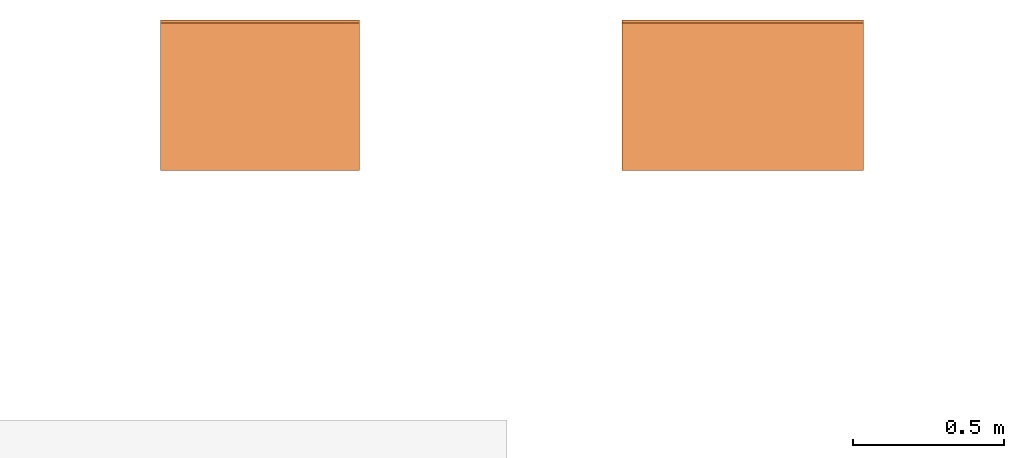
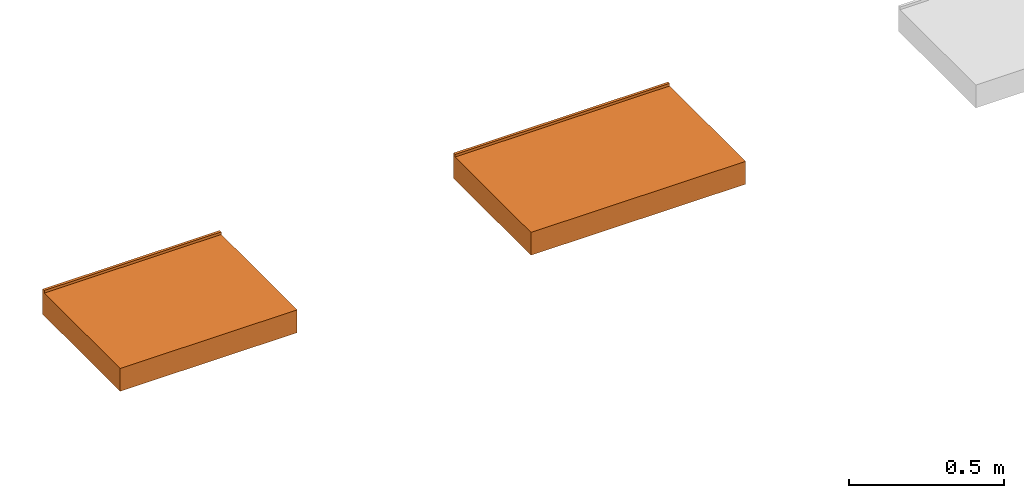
# One storey, part 3 of 3: 2 proxies.
"""IFC2X3 building model written with IfcOpenShell, lengths in millimetres."""

from ifc_helpers import new_model, entity, si_unit, converted_unit, derived_unit, direction, frame, origin, place, context, subcontext, project, spatial, faceted_brep, source, transform, mapped, material, type_object, type_shapes, element, save


model = new_model("IFC2X3")

# Units and contexts
model_context = context("Model", 3, precision=0.01, world=origin(), true_north=direction((6.12303176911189e-17, 1.0)))
context_of_model = context(None, 3, precision=0.01, world=origin(), true_north=direction((6.12303176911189e-17, 1.0)))
body_context = subcontext(model_context, "Body", "Model", "MODEL_VIEW")
ifc_project = project(units=[si_unit("LENGTHUNIT", "METRE", prefix="MILLI"), si_unit("AREAUNIT", "SQUARE_METRE"), si_unit("VOLUMEUNIT", "CUBIC_METRE"), converted_unit("PLANEANGLEUNIT", "DEGREE", entity("IfcRatioMeasure", 0.0174532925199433), si_unit("PLANEANGLEUNIT", "RADIAN"), dimensions=[0, 0, 0, 0, 0, 0, 0]), si_unit("MASSUNIT", "GRAM", prefix="KILO"), derived_unit("MASSDENSITYUNIT", [(si_unit("MASSUNIT", "GRAM", prefix="KILO"), 1), (si_unit("LENGTHUNIT", "METRE"), -3)]), si_unit("TIMEUNIT", "SECOND"), si_unit("FREQUENCYUNIT", "HERTZ"), si_unit("THERMODYNAMICTEMPERATUREUNIT", "DEGREE_CELSIUS"), derived_unit("THERMALTRANSMITTANCEUNIT", [(si_unit("MASSUNIT", "GRAM", prefix="KILO"), 1), (si_unit("THERMODYNAMICTEMPERATUREUNIT", "KELVIN"), -1), (si_unit("TIMEUNIT", "SECOND"), -3)]), derived_unit("VOLUMETRICFLOWRATEUNIT", [(si_unit("LENGTHUNIT", "METRE"), 3), (si_unit("TIMEUNIT", "SECOND"), -1)]), si_unit("ELECTRICCURRENTUNIT", "AMPERE"), si_unit("ELECTRICVOLTAGEUNIT", "VOLT"), si_unit("POWERUNIT", "WATT"), si_unit("FORCEUNIT", "NEWTON", prefix="KILO"), si_unit("ILLUMINANCEUNIT", "LUX"), si_unit("LUMINOUSFLUXUNIT", "LUMEN"), si_unit("LUMINOUSINTENSITYUNIT", "CANDELA"), derived_unit("USERDEFINED", [(si_unit("MASSUNIT", "GRAM", prefix="KILO"), -1), (si_unit("LENGTHUNIT", "METRE"), -2), (si_unit("TIMEUNIT", "SECOND"), 3), (si_unit("LUMINOUSFLUXUNIT", "LUMEN"), 1)]), derived_unit("LINEARVELOCITYUNIT", [(si_unit("LENGTHUNIT", "METRE"), 1), (si_unit("TIMEUNIT", "SECOND"), -1)]), si_unit("PRESSUREUNIT", "PASCAL"), derived_unit("USERDEFINED", [(si_unit("LENGTHUNIT", "METRE"), -2), (si_unit("MASSUNIT", "GRAM", prefix="KILO"), 1), (si_unit("TIMEUNIT", "SECOND"), -2)])], contexts=[model_context, context_of_model])

# Site, building, storey
site_placement = place(None, origin())
site = spatial("IfcSite", under=ifc_project, at=site_placement, Name="Default", CompositionType="ELEMENT")
building_placement = place(site_placement, origin())
building = spatial("IfcBuilding", under=site, at=building_placement, Name="n/a", CompositionType="ELEMENT")
storey_placement = place(building_placement, origin())
storey = spatial("IfcBuildingStorey", under=building, at=storey_placement, Name="Level 0", CompositionType="ELEMENT", Elevation=0.0)

# Proxies
ifc_material = material(Name="DBLTD_Neilur_SolidSurface_White")
building_element_proxy_type_1 = type_object("IfcBuildingElementProxyType", PredefinedType="NOTDEFINED", material=ifc_material)
shared_shape_1 = source(origin(), body_context, "Body", "Brep", [
    faceted_brep([(660.0, 490.0, 90.0), (660.0, 0.0, 90.0), (660.0, 0.0, 0.0), (660.0, 500.0, 0.0), (660.0, 500.0, 100.0), (660.0, 490.0, 100.0), (0.0, 500.0, 0.0), (0.0, 0.0, 0.0), (0.0, 0.0, 90.0), (0.0, 490.0, 90.0), (0.0, 490.0, 100.0), (0.0, 500.0, 100.0), (619.104568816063, 490.0, 57.7377311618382), (621.036594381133, 490.0, 56.9374599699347), (650.0, 490.0, 80.0), (617.03125, 490.0, 58.0106887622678), (622.695662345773, 490.0, 55.6644123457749), (623.968709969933, 490.0, 54.0053443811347), (624.768981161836, 490.0, 52.0733188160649), (625.041938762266, 490.0, 50.0), (624.768981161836, 490.0, 47.9266811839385), (650.0, 490.0, 0.0), (623.968709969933, 490.0, 45.9946556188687), (622.695662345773, 490.0, 44.3355876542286), (621.036594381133, 490.0, 43.0625400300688), (619.104568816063, 490.0, 42.2622688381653), (617.03125, 490.0, 41.9893112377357), (602.96875, 490.0, 41.9893112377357), (600.895431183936, 490.0, 42.2622688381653), (598.963405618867, 490.0, 43.0625400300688), (10.0, 490.0, 0.0), (61.0365943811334, 490.0, 43.0625400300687), (597.304337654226, 490.0, 44.3355876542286), (62.6956623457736, 490.0, 44.3355876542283), (596.031290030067, 490.0, 45.9946556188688), (63.9687099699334, 490.0, 45.9946556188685), (595.231018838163, 490.0, 47.9266811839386), (64.7689811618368, 490.0, 47.9266811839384), (594.958061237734, 490.0, 50.0), (65.0419387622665, 490.0, 50.0), (64.7689811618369, 490.0, 52.0733188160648), (595.231018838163, 490.0, 52.073318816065), (63.9687099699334, 490.0, 54.0053443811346), (596.031290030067, 490.0, 54.0053443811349), (62.6956623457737, 490.0, 55.6644123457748), (597.304337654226, 490.0, 55.6644123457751), (61.0365943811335, 490.0, 56.9374599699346), (598.963405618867, 490.0, 56.9374599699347), (59.1045688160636, 490.0, 57.7377311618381), (600.895431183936, 490.0, 57.7377311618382), (10.0, 490.0, 80.0), (602.96875, 490.0, 58.0106887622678), (57.0312500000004, 490.0, 58.0106887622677), (59.1045688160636, 490.0, 42.2622688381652), (57.0312500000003, 490.0, 41.9893112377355), (42.9687500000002, 490.0, 41.9893112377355), (40.8954311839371, 490.0, 42.2622688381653), (38.9634056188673, 490.0, 43.0625400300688), (37.3043376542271, 490.0, 44.3355876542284), (36.0312900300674, 490.0, 45.9946556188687), (35.2310188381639, 490.0, 47.9266811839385), (34.9580612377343, 490.0, 50.0), (35.2310188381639, 490.0, 52.0733188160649), (36.0312900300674, 490.0, 54.0053443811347), (37.3043376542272, 490.0, 55.6644123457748), (38.9634056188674, 490.0, 56.9374599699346), (40.8954311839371, 490.0, 57.7377311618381), (42.9687500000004, 490.0, 58.0106887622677), (650.0, 10.0, 0.0), (10.0, 10.0, 0.0), (617.03125, 500.0, 41.9893112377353), (619.104568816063, 500.0, 42.2622688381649), (602.96875, 500.0, 41.9893112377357), (621.036594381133, 500.0, 43.0625400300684), (622.695662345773, 500.0, 44.335587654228), (623.968709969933, 500.0, 45.9946556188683), (624.768981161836, 500.0, 47.9266811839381), (625.041938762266, 500.0, 50.0), (600.895431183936, 500.0, 42.2622688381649), (598.963405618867, 500.0, 43.0625400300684), (61.0365943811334, 500.0, 43.0625400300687), (59.1045688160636, 500.0, 42.2622688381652), (57.0312500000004, 500.0, 41.9893112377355), (42.9687500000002, 500.0, 41.9893112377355), (40.895431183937, 500.0, 42.2622688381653), (38.9634056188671, 500.0, 43.0625400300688), (37.3043376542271, 500.0, 44.3355876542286), (36.0312900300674, 500.0, 45.9946556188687), (35.2310188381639, 500.0, 47.9266811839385), (34.9580612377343, 500.0, 50.0), (598.963405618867, 500.0, 56.9374599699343), (35.2310188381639, 500.0, 52.0733188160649), (36.0312900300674, 500.0, 54.0053443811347), (37.3043376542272, 500.0, 55.6644123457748), (38.9634056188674, 500.0, 56.9374599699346), (40.8954311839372, 500.0, 57.7377311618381), (42.9687500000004, 500.0, 58.0106887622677), (57.0312500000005, 500.0, 58.0106887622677), (59.1045688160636, 500.0, 57.7377311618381), (61.0365943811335, 500.0, 56.9374599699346), (600.895431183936, 500.0, 57.7377311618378), (597.304337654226, 500.0, 55.6644123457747), (62.6956623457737, 500.0, 55.6644123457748), (596.031290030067, 500.0, 54.0053443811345), (63.9687099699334, 500.0, 54.0053443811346), (595.231018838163, 500.0, 52.0733188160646), (64.7689811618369, 500.0, 52.0733188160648), (594.958061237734, 500.0, 50.0), (65.0419387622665, 500.0, 50.0), (64.7689811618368, 500.0, 47.9266811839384), (595.231018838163, 500.0, 47.9266811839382), (63.9687099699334, 500.0, 45.9946556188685), (596.031290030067, 500.0, 45.9946556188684), (62.6956623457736, 500.0, 44.3355876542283), (597.304337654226, 500.0, 44.3355876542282), (624.768981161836, 500.0, 52.0733188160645), (623.968709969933, 500.0, 54.0053443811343), (622.695662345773, 500.0, 55.6644123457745), (621.036594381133, 500.0, 56.9374599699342), (619.104568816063, 500.0, 57.7377311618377), (617.03125, 500.0, 58.0106887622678), (602.96875, 500.0, 58.0106887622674), (10.0, 10.0, 80.0), (650.0, 10.0, 80.0)], [[[0, 1, 2, 3, 4, 5]], [[6, 7, 8, 9, 10, 11]], [[0, 5, 10, 9]], [[0, 5, 9]], [[10, 9, 5]], [[12, 13, 14]], [[15, 12, 14]], [[16, 14, 13]], [[14, 16, 17]], [[14, 17, 18]], [[14, 18, 19]], [[19, 20, 14]], [[21, 14, 20]], [[21, 20, 22]], [[21, 22, 23]], [[23, 24, 21]], [[25, 21, 24]], [[26, 21, 25]], [[21, 26, 27]], [[21, 27, 28]], [[21, 28, 29]], [[21, 29, 30]], [[31, 30, 29]], [[32, 31, 29]], [[31, 32, 33]], [[33, 32, 34]], [[33, 34, 35]], [[35, 34, 36]], [[36, 37, 35]], [[37, 36, 38]], [[38, 39, 37]], [[40, 39, 38]], [[38, 41, 40]], [[41, 42, 40]], [[42, 41, 43]], [[43, 44, 42]], [[44, 43, 45]], [[44, 45, 46]], [[46, 45, 47]], [[46, 47, 48]], [[47, 49, 48]], [[50, 49, 14]], [[14, 49, 51]], [[49, 50, 48]], [[14, 51, 15]], [[50, 52, 48]], [[30, 31, 53]], [[30, 53, 54]], [[54, 55, 30]], [[56, 30, 55]], [[30, 56, 57]], [[58, 30, 57]], [[30, 58, 59]], [[30, 59, 60]], [[60, 61, 50]], [[50, 30, 60]], [[50, 61, 62]], [[50, 62, 63]], [[50, 63, 64]], [[64, 65, 50]], [[50, 65, 66]], [[66, 67, 50]], [[52, 50, 67]], [[1, 0, 9, 8]], [[2, 1, 8, 7]], [[2, 68, 21]], [[68, 2, 69]], [[21, 3, 2]], [[7, 69, 2]], [[69, 7, 30]], [[6, 30, 7]], [[30, 6, 3]], [[3, 21, 30]], [[3, 70, 71]], [[70, 3, 72]], [[3, 71, 73]], [[73, 74, 3]], [[75, 3, 74]], [[75, 76, 3]], [[3, 76, 77]], [[78, 72, 3]], [[79, 78, 3]], [[3, 6, 79]], [[77, 4, 3]], [[80, 79, 6]], [[81, 80, 6]], [[82, 81, 6]], [[6, 83, 82]], [[83, 6, 84]], [[84, 6, 85]], [[86, 85, 6]], [[86, 6, 87]], [[88, 87, 6]], [[6, 89, 88]], [[89, 6, 11]], [[4, 90, 11]], [[91, 89, 11]], [[92, 91, 11]], [[11, 93, 92]], [[93, 11, 94]], [[95, 94, 11]], [[95, 11, 96]], [[97, 96, 11]], [[98, 97, 11]], [[99, 98, 11]], [[99, 11, 90]], [[100, 90, 4]], [[101, 99, 90]], [[102, 99, 101]], [[101, 103, 102]], [[104, 102, 103]], [[103, 105, 104]], [[106, 104, 105]], [[107, 106, 105]], [[108, 106, 107]], [[109, 108, 107]], [[107, 110, 109]], [[109, 110, 111]], [[112, 111, 110]], [[113, 111, 112]], [[112, 114, 113]], [[79, 80, 114]], [[80, 113, 114]], [[77, 115, 4]], [[115, 116, 4]], [[117, 4, 116]], [[4, 117, 118]], [[118, 119, 4]], [[4, 119, 120]], [[120, 121, 4]], [[121, 100, 4]], [[5, 4, 11, 10]], [[122, 50, 14, 123]], [[30, 50, 122, 69]], [[69, 122, 123, 68]], [[68, 123, 14, 21]], [[96, 97, 52, 67]], [[120, 15, 51, 121]], [[96, 67, 66, 95]], [[95, 66, 65, 94]], [[92, 93, 64, 63]], [[64, 93, 94, 65]], [[91, 92, 63, 62]], [[91, 62, 61, 89]], [[89, 61, 60, 88]], [[88, 60, 59, 87]], [[85, 86, 58, 57]], [[58, 86, 87, 59]], [[84, 85, 57, 56]], [[84, 56, 55, 83]], [[83, 55, 54, 82]], [[70, 72, 27, 26]], [[81, 82, 54, 53]], [[81, 53, 31, 80]], [[111, 113, 33, 35]], [[113, 80, 31, 33]], [[111, 35, 37, 109]], [[109, 37, 39, 108]], [[108, 39, 40, 106]], [[106, 40, 42, 104]], [[99, 102, 44, 46]], [[44, 102, 104, 42]], [[98, 99, 46, 48]], [[98, 48, 52, 97]], [[49, 47, 90, 100]], [[51, 49, 100, 121]], [[43, 41, 105, 103]], [[45, 43, 103, 101]], [[47, 45, 101, 90]], [[41, 38, 107, 105]], [[34, 32, 114, 112]], [[36, 34, 112, 110]], [[28, 27, 72, 78]], [[29, 28, 78, 79]], [[32, 29, 79, 114]], [[110, 107, 38, 36]], [[25, 24, 73, 71]], [[26, 25, 71, 70]], [[22, 20, 76, 75]], [[23, 22, 75, 74]], [[24, 23, 74, 73]], [[20, 19, 77, 76]], [[17, 16, 117, 116]], [[18, 17, 116, 115]], [[12, 15, 120, 119]], [[13, 12, 119, 118]], [[16, 13, 118, 117]], [[115, 77, 19, 18]]]),
])
type_shapes(building_element_proxy_type_1, [shared_shape_1])
proxy_1_placement = place(storey_placement, frame((2468.96138655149, 2338.29335960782, 950.0)))
element("IfcBuildingElementProxy", 1, at=proxy_1_placement, inside=storey, type_object=building_element_proxy_type_1, material=ifc_material, Name="(7)", ObjectType="DBLTD_Neilur_Shelves_ShelfForCounertopBasin:Countertop Basin Shelf 600 mm", context=body_context, shape_type="MappedRepresentation", body=[
    mapped(shared_shape_1, transform((0.0, 0.0, 0.0), scale=1.0)),
])
building_element_proxy_type_2 = type_object("IfcBuildingElementProxyType", PredefinedType="NOTDEFINED", material=ifc_material)
shared_shape_2 = source(origin(), body_context, "Body", "Brep", [
    faceted_brep([(800.0, 490.0, 90.0), (800.0, 0.0, 90.0), (800.0, 0.0, 0.0), (800.0, 500.0, 0.0), (800.0, 500.0, 100.0), (800.0, 490.0, 100.0), (0.0, 500.0, 0.0), (0.0, 0.0, 0.0), (0.0, 0.0, 90.0), (0.0, 490.0, 90.0), (0.0, 490.0, 100.0), (0.0, 500.0, 100.0), (759.104568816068, 490.0, 57.737731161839), (761.036594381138, 490.0, 56.9374599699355), (790.0, 490.0, 80.0), (757.031250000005, 490.0, 58.0106887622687), (762.695662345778, 490.0, 55.6644123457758), (763.968709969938, 490.0, 54.0053443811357), (764.768981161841, 490.0, 52.0733188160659), (765.041938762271, 490.0, 50.0), (764.768981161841, 490.0, 47.9266811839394), (790.0, 490.0, 0.0), (763.968709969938, 490.0, 45.9946556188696), (762.695662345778, 490.0, 44.3355876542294), (761.036594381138, 490.0, 43.0625400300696), (759.104568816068, 490.0, 42.2622688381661), (757.031250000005, 490.0, 41.9893112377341), (742.968750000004, 490.0, 41.9893112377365), (740.895431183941, 490.0, 42.2622688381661), (738.963405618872, 490.0, 43.0625400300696), (10.0, 490.0, 0.0), (61.0365943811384, 490.0, 43.0625400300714), (737.304337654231, 490.0, 44.3355876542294), (62.6956623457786, 490.0, 44.335587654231), (736.031290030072, 490.0, 45.9946556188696), (63.9687099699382, 490.0, 45.9946556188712), (735.231018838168, 490.0, 47.9266811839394), (64.7689811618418, 490.0, 47.9266811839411), (734.958061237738, 490.0, 50.0), (65.0419387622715, 490.0, 50.0), (64.7689811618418, 490.0, 52.0733188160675), (735.231018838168, 490.0, 52.0733188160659), (63.9687099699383, 490.0, 54.0053443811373), (736.031290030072, 490.0, 54.0053443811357), (62.6956623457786, 490.0, 55.6644123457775), (737.304337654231, 490.0, 55.6644123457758), (61.0365943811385, 490.0, 56.9374599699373), (738.963405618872, 490.0, 56.9374599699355), (740.895431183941, 490.0, 57.737731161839), (10.0, 490.0, 80.0), (742.968750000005, 490.0, 58.0106887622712), (59.1045688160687, 490.0, 57.7377311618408), (59.1045688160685, 490.0, 42.2622688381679), (57.0312500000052, 490.0, 41.9893112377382), (42.9687500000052, 490.0, 41.9893112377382), (40.8954311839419, 490.0, 42.262268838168), (38.9634056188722, 490.0, 43.0625400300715), (37.3043376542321, 490.0, 44.3355876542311), (36.0312900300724, 490.0, 45.9946556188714), (35.2310188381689, 490.0, 47.9266811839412), (34.9580612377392, 490.0, 50.0), (35.2310188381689, 490.0, 52.0733188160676), (36.0312900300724, 490.0, 54.0053443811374), (37.3043376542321, 490.0, 55.6644123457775), (38.9634056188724, 490.0, 56.9374599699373), (40.8954311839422, 490.0, 57.7377311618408), (42.9687500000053, 490.0, 58.0106887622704), (57.0312500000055, 490.0, 58.0106887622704), (790.0, 10.0, 0.0), (10.0, 10.0, 0.0), (757.031250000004, 500.0, 41.9893112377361), (759.104568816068, 500.0, 42.2622688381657), (742.968750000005, 500.0, 41.9893112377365), (761.036594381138, 500.0, 43.0625400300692), (762.695662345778, 500.0, 44.3355876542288), (763.968709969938, 500.0, 45.9946556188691), (764.768981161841, 500.0, 47.9266811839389), (765.041938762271, 500.0, 50.0), (740.895431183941, 500.0, 42.2622688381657), (738.963405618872, 500.0, 43.0625400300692), (61.0365943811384, 500.0, 43.0625400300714), (59.1045688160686, 500.0, 42.2622688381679), (57.0312500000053, 500.0, 41.9893112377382), (42.9687500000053, 500.0, 41.9893112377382), (40.895431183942, 500.0, 42.262268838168), (38.9634056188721, 500.0, 43.0625400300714), (37.3043376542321, 500.0, 44.3355876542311), (36.0312900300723, 500.0, 45.9946556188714), (35.2310188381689, 500.0, 47.9266811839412), (34.9580612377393, 500.0, 50.0), (738.963405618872, 500.0, 56.9374599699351), (35.2310188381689, 500.0, 52.0733188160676), (36.0312900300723, 500.0, 54.0053443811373), (37.3043376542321, 500.0, 55.6644123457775), (38.9634056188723, 500.0, 56.9374599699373), (40.895431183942, 500.0, 57.7377311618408), (42.9687500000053, 500.0, 58.0106887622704), (57.0312500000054, 500.0, 58.0106887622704), (59.1045688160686, 500.0, 57.7377311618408), (61.0365943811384, 500.0, 56.9374599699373), (740.895431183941, 500.0, 57.7377311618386), (737.304337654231, 500.0, 55.6644123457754), (62.6956623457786, 500.0, 55.6644123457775), (736.031290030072, 500.0, 54.0053443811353), (63.9687099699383, 500.0, 54.0053443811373), (735.231018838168, 500.0, 52.0733188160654), (64.7689811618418, 500.0, 52.0733188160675), (734.958061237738, 500.0, 50.0), (65.0419387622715, 500.0, 50.0), (64.7689811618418, 500.0, 47.9266811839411), (735.231018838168, 500.0, 47.926681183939), (63.9687099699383, 500.0, 45.9946556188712), (736.031290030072, 500.0, 45.9946556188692), (62.6956623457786, 500.0, 44.3355876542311), (737.304337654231, 500.0, 44.335587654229), (764.768981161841, 500.0, 52.0733188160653), (763.968709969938, 500.0, 54.0053443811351), (762.695662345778, 500.0, 55.6644123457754), (761.036594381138, 500.0, 56.9374599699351), (759.104568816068, 500.0, 57.7377311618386), (757.031250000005, 500.0, 58.0106887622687), (742.968750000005, 500.0, 58.0106887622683), (790.0, 10.0, 80.0), (10.0, 10.0, 80.0)], [[[0, 1, 2, 3, 4, 5]], [[6, 7, 8, 9, 10, 11]], [[0, 5, 10, 9]], [[0, 5, 10]], [[10, 9, 0]], [[12, 13, 14]], [[15, 12, 14]], [[16, 14, 13]], [[14, 16, 17]], [[14, 17, 18]], [[14, 18, 19]], [[19, 20, 14]], [[21, 14, 20]], [[21, 20, 22]], [[21, 22, 23]], [[23, 24, 21]], [[25, 21, 24]], [[26, 21, 25]], [[21, 26, 27]], [[21, 27, 28]], [[21, 28, 29]], [[21, 29, 30]], [[31, 30, 29]], [[32, 31, 29]], [[31, 32, 33]], [[33, 32, 34]], [[33, 34, 35]], [[35, 34, 36]], [[36, 37, 35]], [[37, 36, 38]], [[38, 39, 37]], [[40, 39, 38]], [[38, 41, 40]], [[41, 42, 40]], [[42, 41, 43]], [[43, 44, 42]], [[44, 43, 45]], [[44, 45, 46]], [[46, 45, 47]], [[14, 47, 48]], [[49, 47, 14]], [[47, 49, 46]], [[14, 48, 50]], [[14, 50, 15]], [[49, 51, 46]], [[30, 31, 52]], [[30, 52, 53]], [[53, 54, 30]], [[55, 30, 54]], [[30, 55, 56]], [[57, 30, 56]], [[30, 57, 58]], [[30, 58, 59]], [[59, 60, 49]], [[49, 30, 59]], [[49, 60, 61]], [[49, 61, 62]], [[49, 62, 63]], [[63, 64, 49]], [[49, 64, 65]], [[65, 66, 49]], [[67, 49, 66]], [[49, 67, 51]], [[1, 0, 9, 8]], [[2, 1, 8, 7]], [[2, 68, 21]], [[68, 2, 69]], [[21, 3, 2]], [[7, 69, 2]], [[69, 7, 30]], [[6, 30, 7]], [[30, 6, 3]], [[3, 21, 30]], [[3, 70, 71]], [[70, 3, 72]], [[3, 71, 73]], [[73, 74, 3]], [[75, 3, 74]], [[75, 76, 3]], [[3, 76, 77]], [[78, 72, 3]], [[79, 78, 3]], [[3, 6, 79]], [[77, 4, 3]], [[80, 79, 6]], [[81, 80, 6]], [[82, 81, 6]], [[6, 83, 82]], [[83, 6, 84]], [[84, 6, 85]], [[86, 85, 6]], [[86, 6, 87]], [[88, 87, 6]], [[6, 89, 88]], [[89, 6, 11]], [[4, 90, 11]], [[91, 89, 11]], [[92, 91, 11]], [[11, 93, 92]], [[93, 11, 94]], [[95, 94, 11]], [[95, 11, 96]], [[97, 96, 11]], [[98, 97, 11]], [[99, 98, 11]], [[99, 11, 90]], [[100, 90, 4]], [[101, 99, 90]], [[102, 99, 101]], [[101, 103, 102]], [[104, 102, 103]], [[103, 105, 104]], [[106, 104, 105]], [[107, 106, 105]], [[108, 106, 107]], [[109, 108, 107]], [[107, 110, 109]], [[109, 110, 111]], [[112, 111, 110]], [[113, 111, 112]], [[112, 114, 113]], [[79, 80, 114]], [[80, 113, 114]], [[77, 115, 4]], [[115, 116, 4]], [[117, 4, 116]], [[4, 117, 118]], [[118, 119, 4]], [[4, 119, 120]], [[120, 121, 4]], [[121, 100, 4]], [[5, 4, 11, 10]], [[49, 14, 122, 123]], [[30, 49, 123, 69]], [[69, 123, 122, 68]], [[68, 122, 14, 21]], [[96, 97, 67, 66]], [[121, 120, 15, 50]], [[96, 66, 65, 95]], [[95, 65, 64, 94]], [[92, 93, 63, 62]], [[63, 93, 94, 64]], [[91, 92, 62, 61]], [[91, 61, 60, 89]], [[89, 60, 59, 88]], [[88, 59, 58, 87]], [[85, 86, 57, 56]], [[57, 86, 87, 58]], [[84, 85, 56, 55]], [[84, 55, 54, 83]], [[82, 83, 54, 53]], [[70, 72, 27, 26]], [[81, 82, 53, 52]], [[81, 52, 31, 80]], [[111, 113, 33, 35]], [[113, 80, 31, 33]], [[111, 35, 37, 109]], [[109, 37, 39, 108]], [[108, 39, 40, 106]], [[106, 40, 42, 104]], [[99, 102, 44, 46]], [[44, 102, 104, 42]], [[98, 99, 46, 51]], [[98, 51, 67, 97]], [[48, 47, 90, 100]], [[50, 48, 100, 121]], [[43, 41, 105, 103]], [[45, 43, 103, 101]], [[47, 45, 101, 90]], [[41, 38, 107, 105]], [[34, 32, 114, 112]], [[36, 34, 112, 110]], [[28, 27, 72, 78]], [[29, 28, 78, 79]], [[32, 29, 79, 114]], [[110, 107, 38, 36]], [[25, 24, 73, 71]], [[26, 25, 71, 70]], [[22, 20, 76, 75]], [[23, 22, 75, 74]], [[24, 23, 74, 73]], [[20, 19, 77, 76]], [[17, 16, 117, 116]], [[18, 17, 116, 115]], [[12, 15, 120, 119]], [[13, 12, 119, 118]], [[16, 13, 118, 117]], [[115, 77, 19, 18]]]),
])
type_shapes(building_element_proxy_type_2, [shared_shape_2])
proxy_2_placement = place(storey_placement, frame((4000.23961769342, 2338.29335960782, 950.0)))
element("IfcBuildingElementProxy", 2, at=proxy_2_placement, inside=storey, type_object=building_element_proxy_type_2, material=ifc_material, Name="(9)", ObjectType="DBLTD_Neilur_Shelves_ShelfForCounertopBasin:Countertop Basin Shelf 800 mm", context=body_context, shape_type="MappedRepresentation", body=[
    mapped(shared_shape_2, transform((0.0, 0.0, 0.0), scale=1.0)),
])

save(model, "model.ifc")
